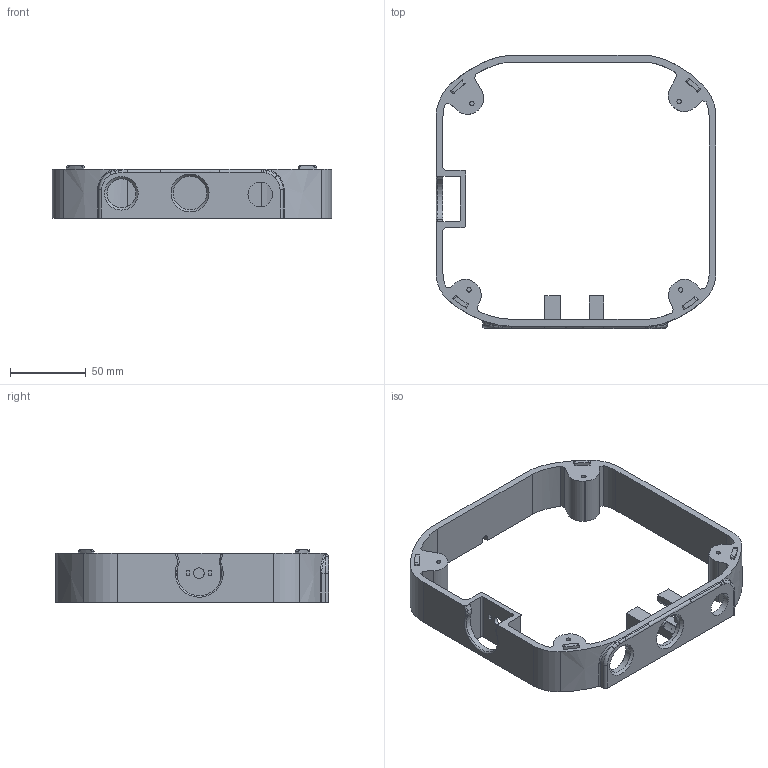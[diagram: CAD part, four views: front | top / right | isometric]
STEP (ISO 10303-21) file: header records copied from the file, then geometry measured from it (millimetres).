
FILE_DESCRIPTION(/* description */ (''),/* implementation_level */ '2;1');
FILE_NAME(/* name */ 'women base modify part A.stp',/* time_stamp */ '2025-12-02T15:24:12+09:00',/* author */ (''),/* organization */ (''),/* preprocessor_version */ 'ST-DEVELOPER v11',/* originating_system */ 'SIEMENS PLM Software NX 7.5',/* authorisation */ '');
FILE_SCHEMA (('CONFIG_CONTROL_DESIGN'));
Length unit declared in the file: millimetre
Products named in the file (1): gyunA916mqif
Bounding box: 184.4 x 179.9 x 34.3 mm (x, y, z)
Volume: 141797.1 mm3; surface area: 58412 mm2
Topology: 1 solids, 1 shells, 228 faces, 615 edges, 406 vertices
Faces by surface type: plane 115, cylinder 75, bspline 24, torus 6, extrusion 5, cone 3
Full cylindrical faces by diameter (mm): 2.9 x12, 7 x1, 11 x1, 16.2 x1, 19.1 x1, 22 x1
Entity records: 7568 total; most frequent: CARTESIAN_POINT 1962, ORIENTED_EDGE 1166, DIRECTION 1072, EDGE_CURVE 583, VERTEX_POINT 395, VECTOR 362, LINE 357, AXIS2_PLACEMENT_3D 355
